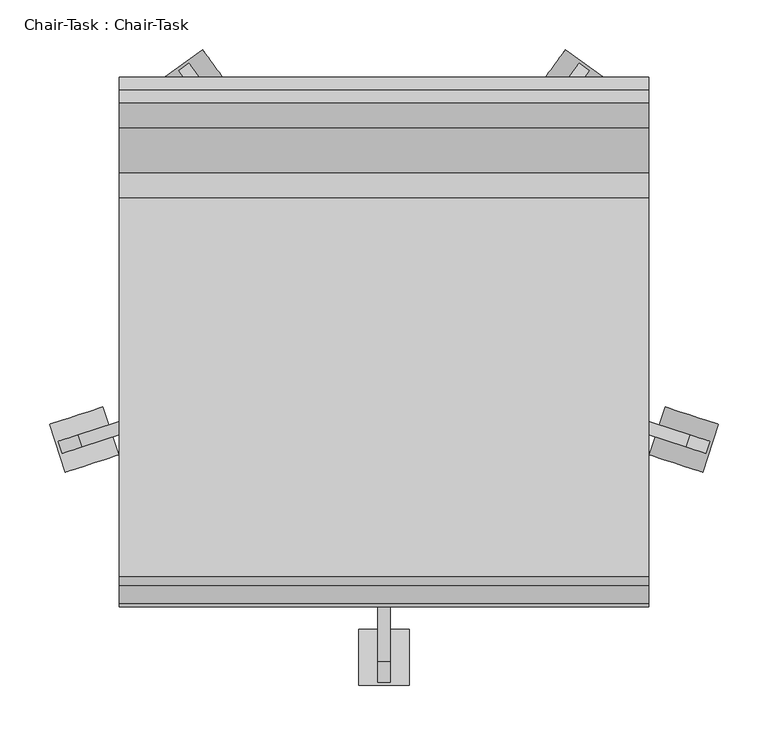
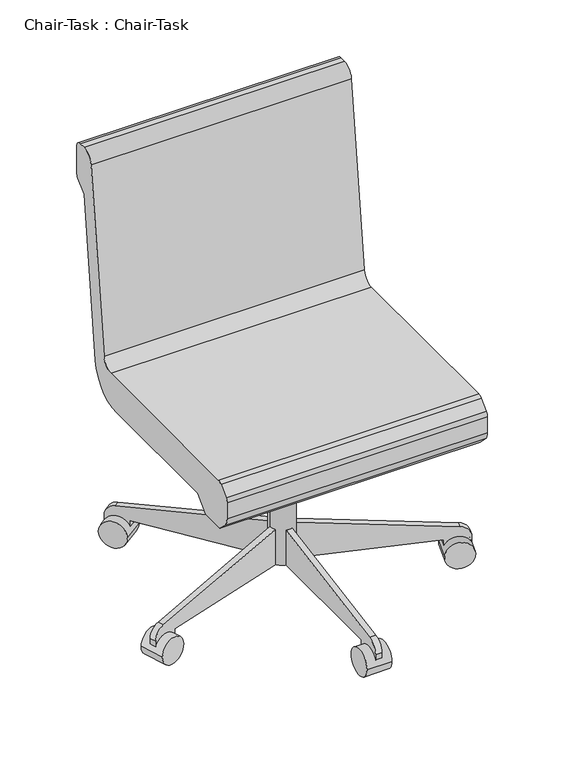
"""IFC4 building model written with IfcOpenShell, lengths in millimetres: furniture geometry, Chair-Task : Chair-Task."""

import ifcopenshell
import ifcopenshell.guid

model = None  # the IFC model being written
_history = None  # IfcOwnerHistory: only IFC2X3 demands one
_inside = {}  # id of a spatial element -> (the spatial element, [elements in it])
_under = {}  # id of a project, library or spatial element -> (it, [spatial elements below it])
_declared = {}  # id of a project -> (the project, [libraries it declares])
_typed = {}  # id of a type object -> (the type object, [elements of that type])
_made_of = {}  # id of a material, layer set ... -> (it, [elements and type objects made of it])


def new_model(schema):
    """Start an empty IFC model of exactly this schema.

    Asked for "IFC4X3", IfcOpenShell would pick the latest addendum, in which some entities
    have other attributes; the version numbers below select the first issue.
    IFC2X3 requires an IfcOwnerHistory on every rooted entity: one is made here for all.
    """
    global model, _history
    if schema == "IFC4X3":
        model = ifcopenshell.file(schema_version=(4, 3, 0, 0))
    else:
        model = ifcopenshell.file(schema=schema)
    _inside.clear()
    _under.clear()
    _declared.clear()
    _typed.clear()
    _made_of.clear()
    _history = None
    if model.schema == "IFC2X3":
        org = make("IfcOrganization", Name="unknown")
        user = make(
            "IfcPersonAndOrganization",
            ThePerson=make("IfcPerson", FamilyName="unknown"),
            TheOrganization=org,
        )
        app = make(
            "IfcApplication",
            ApplicationDeveloper=org,
            Version="unknown",
            ApplicationFullName="unknown",
            ApplicationIdentifier="unknown",
        )
        _history = make(
            "IfcOwnerHistory",
            OwningUser=user,
            OwningApplication=app,
            ChangeAction="ADDED",
            CreationDate=0,
        )
    return model


def make(cls, **values):
    """One entity of the class cls with the attributes given. An attribute that is None is left unset."""
    return model.create_entity(
        cls, **{name: value for name, value in values.items() if value is not None}
    )


def rooted(cls, **values):
    """An entity with a GlobalId (a new one), such as an element, a storey or a relation."""
    return make(cls, GlobalId=ifcopenshell.guid.new(), OwnerHistory=_history, **values)


def si_unit(unit_type, name, prefix=None):
    """IfcSIUnit, for example si_unit("LENGTHUNIT", "METRE", prefix="MILLI")."""
    return make("IfcSIUnit", UnitType=unit_type, Prefix=prefix, Name=name)


def assignment(units):
    """IfcUnitAssignment: the units of a project."""
    return None if units is None else make("IfcUnitAssignment", Units=units)


def point(xyz):
    """IfcCartesianPoint."""
    return None if xyz is None else make("IfcCartesianPoint", Coordinates=xyz)


def direction(xyz):
    """IfcDirection."""
    return None if xyz is None else make("IfcDirection", DirectionRatios=xyz)


def frame(location, z_axis=None, x_axis=None):
    """IfcAxis2Placement3D, a coordinate frame: its origin and axes. An axis left out is left unset."""
    return make(
        "IfcAxis2Placement3D",
        Location=point(location),
        Axis=direction(z_axis),
        RefDirection=direction(x_axis),
    )


def frame_2d(location, x_axis=None):
    """IfcAxis2Placement2D, a coordinate frame in the plane: its origin and x axis."""
    return make(
        "IfcAxis2Placement2D", Location=point(location), RefDirection=direction(x_axis)
    )


def origin():
    """The frame at (0, 0, 0) with its axes left unset."""
    return frame((0.0, 0.0, 0.0))


def place(relative_to, where):
    """IfcLocalPlacement: puts the frame where relative to a parent placement (None: the world)."""
    return make(
        "IfcLocalPlacement", PlacementRelTo=relative_to, RelativePlacement=where
    )


def context(
    kind, dimensions, precision=None, world=None, true_north=None, identifier=None
):
    """IfcGeometricRepresentationContext, for example the 3D "Model" context."""
    return make(
        "IfcGeometricRepresentationContext",
        ContextIdentifier=identifier,
        ContextType=kind,
        CoordinateSpaceDimension=dimensions,
        Precision=precision,
        WorldCoordinateSystem=world,
        TrueNorth=true_north,
    )


def project(units=None, contexts=None):
    """IfcProject with its units and contexts."""
    return rooted(
        "IfcProject",
        Name="project",
        RepresentationContexts=contexts,
        UnitsInContext=assignment(units),
    )


def spatial(cls, under=None, at=None, **own):
    """A site, building, storey or space (cls), placed at a placement, below another one or the project."""
    s = rooted(cls, ObjectPlacement=at, **own)
    if under is not None:
        _under.setdefault(under.id(), (under, []))[1].append(s)
    return s


def polyline(points):
    """IfcPolyline through the points."""
    return make("IfcPolyline", Points=[point(p) for p in points])


def circle_curve(where, radius):
    """IfcCircle in the frame where."""
    return make("IfcCircle", Position=where, Radius=radius)


def trimmed(basis, trim1, trim2, sense, master):
    """IfcTrimmedCurve: the piece of a basis curve between two trims."""
    return make(
        "IfcTrimmedCurve",
        BasisCurve=basis,
        Trim1=trim1,
        Trim2=trim2,
        SenseAgreement=sense,
        MasterRepresentation=master,
    )


def segment(curve, same_sense, transition):
    """IfcCompositeCurveSegment."""
    return make(
        "IfcCompositeCurveSegment",
        Transition=transition,
        SameSense=same_sense,
        ParentCurve=curve,
    )


def composite_curve(segments, self_intersect=None):
    """IfcCompositeCurve: segments joined end to end."""
    return make("IfcCompositeCurve", Segments=segments, SelfIntersect=self_intersect)


def outline(outer, holes=None, kind="AREA"):
    """IfcArbitraryClosedProfileDef: a profile drawn as a closed curve; with holes, ...WithVoids."""
    if holes is None:
        return make("IfcArbitraryClosedProfileDef", ProfileType=kind, OuterCurve=outer)
    return make(
        "IfcArbitraryProfileDefWithVoids",
        ProfileType=kind,
        OuterCurve=outer,
        InnerCurves=holes,
    )


def extrude(swept, where, along, depth):
    """IfcExtrudedAreaSolid: the profile swept, set in the frame where, extruded along a direction by depth."""
    return make(
        "IfcExtrudedAreaSolid",
        SweptArea=swept,
        Position=where,
        ExtrudedDirection=direction(along),
        Depth=depth,
    )


def shape(context_of_items, identifier, shape_type, items):
    """IfcShapeRepresentation: the items that make up one representation, for example the "Body"."""
    return make(
        "IfcShapeRepresentation",
        ContextOfItems=context_of_items,
        RepresentationIdentifier=identifier,
        RepresentationType=shape_type,
        Items=items,
    )


def source(mapping_origin, context_of_items, identifier, shape_type, items):
    """IfcRepresentationMap: a shape defined once, which mapped items show again and again."""
    return make(
        "IfcRepresentationMap",
        MappingOrigin=mapping_origin,
        MappedRepresentation=shape(context_of_items, identifier, shape_type, items),
    )


def transform(
    local_origin,
    x_axis=None,
    y_axis=None,
    z_axis=None,
    scale=None,
    scale2=None,
    scale3=None,
    uniform=True,
):
    """IfcCartesianTransformationOperator3D, or its non-uniform kind. x_axis, y_axis, z_axis: its Axis1, 2, 3."""
    if uniform:
        return make(
            "IfcCartesianTransformationOperator3D",
            Axis1=direction(x_axis),
            Axis2=direction(y_axis),
            LocalOrigin=point(local_origin),
            Scale=scale,
            Axis3=direction(z_axis),
        )
    return make(
        "IfcCartesianTransformationOperator3DnonUniform",
        Axis1=direction(x_axis),
        Axis2=direction(y_axis),
        LocalOrigin=point(local_origin),
        Scale=scale,
        Axis3=direction(z_axis),
        Scale2=scale2,
        Scale3=scale3,
    )


def mapped(mapping_source, mapping_target):
    """IfcMappedItem: shows the shape of a source again, moved by a transform."""
    return make(
        "IfcMappedItem", MappingSource=mapping_source, MappingTarget=mapping_target
    )


def made_of(thing, what):
    """Note that an element or type object is made of a material, layer set ...; save() writes the relation."""
    if what is not None:
        _made_of.setdefault(what.id(), (what, []))[1].append(thing)
    return thing


def element(
    cls,
    number,
    at=None,
    inside=None,
    cuts=None,
    type_object=None,
    material=None,
    context=None,
    identifier="Body",
    shape_type=None,
    held_by="IfcProductDefinitionShape",
    body=None,
    shapes=None,
    **own,
):
    """One element of the class cls, such as IfcWall. Its Tag is "e" and its number.

    at: its placement. inside: the storey or other place that contains it. cuts: it is an
    opening in that element (IfcRelVoidsElement). A single representation is given by context,
    identifier, shape_type and body (its items); several are given by shapes. held_by: the class
    of the entity that holds the representations. save() writes the other relations.
    """
    e = rooted(cls, Tag="e%d" % number, ObjectPlacement=at, **own)
    if body is not None:
        shapes = [shape(context, identifier, shape_type, body)]
    if shapes is not None:
        e.Representation = make(held_by, Representations=shapes)
    if inside is not None:
        _inside.setdefault(inside.id(), (inside, []))[1].append(e)
    if cuts is not None:
        rooted(
            "IfcRelVoidsElement", RelatingBuildingElement=cuts, RelatedOpeningElement=e
        )
    if type_object is not None:
        _typed.setdefault(type_object.id(), (type_object, []))[1].append(e)
    return made_of(e, material)


def aggregate(whole, parts):
    """IfcRelAggregates: a whole, such as a stair, and the parts it consists of."""
    return rooted("IfcRelAggregates", RelatingObject=whole, RelatedObjects=parts)


def save(model, path):
    """Write the relations noted so far, then the file.

    IfcRelAggregates (storeys below a building ...), IfcRelContainedInSpatialStructure (elements
    in a storey), IfcRelDefinesByType, IfcRelAssociatesMaterial and IfcRelDeclares: one each for
    every whole, place, type object, material and project.
    """
    for whole, parts in _under.values():
        aggregate(whole, parts)
    for where, things in _inside.values():
        rooted(
            "IfcRelContainedInSpatialStructure",
            RelatedElements=things,
            RelatingStructure=where,
        )
    for kind, things in _typed.values():
        rooted("IfcRelDefinesByType", RelatedObjects=things, RelatingType=kind)
    for what, things in _made_of.values():
        rooted("IfcRelAssociatesMaterial", RelatedObjects=things, RelatingMaterial=what)
    for by, libraries in _declared.values():
        rooted("IfcRelDeclares", RelatingContext=by, RelatedDefinitions=libraries)
    model.write(path)


def chair_task_chair_task_a9f69f28(model_context):
    return source(origin(), model_context, "Body", "SweptSolid", [
        extrude(outline(composite_curve([segment(trimmed(circle_curve(frame_2d((140.9908197, -18.9459016)), 25.4), [point((115.5908197, -18.9459016))], [point((166.3908197, -18.9459016))], False, "CARTESIAN"), True, "CONTINUOUS"), segment(trimmed(circle_curve(frame_2d((140.9908197, -18.9459016)), 25.4), [point((166.3908197, -18.9459016))], [point((115.5908197, -18.9459016))], False, "CARTESIAN"), True, "CONTINUOUS")], self_intersect=False)), frame((0.0, 0.0, 53.5835944), z_axis=(0.0, 0.0, 1.0), x_axis=(1.0, 0.0, 0.0)), (0.0, 0.0, 1.0), 330.5914056),
        extrude(outline(composite_curve([segment(trimmed(circle_curve(frame_2d((0.0, 28.2002728)), 28.2002727), [point((0.0, 56.4005455))], [point((0.0, 0.0))], False, "CARTESIAN"), True, "CONTINUOUS"), segment(trimmed(circle_curve(frame_2d((0.0, 28.2002728)), 28.2002727), [point((0.0, 0.0))], [point((0.0, 56.4005455))], False, "CARTESIAN"), True, "CONTINUOUS")], self_intersect=False)), frame((461.9222851, -149.9299964, 28.1835944), z_axis=(0.3090169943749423, 0.9510565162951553, 0.0), x_axis=(0.0, 0.0, -1.0)), (0.0, 0.0, 1.0), 50.8),
        extrude(outline(composite_curve([segment(polyline([(25.4, 0.0), (0.0, 0.0), (0.0, 50.8), (24.303053, 50.8)]), True, "CONTINUOUS"), segment(trimmed(circle_curve(frame_2d((24.303053, 25.4)), 25.4), [point((24.303053, 50.8))], [point((49.3171699, 29.8106636))], False, "CARTESIAN"), True, "CONTINUOUS"), segment(polyline([(49.3171699, 29.8106636), (101.6, -266.7), (101.6, -292.1), (25.4, -292.1), (25.4, 0.0)]), True, "CONTINUOUS")], self_intersect=False)), frame((416.8321702, -115.2489746, 28.1835944), z_axis=(0.3090169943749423, 0.9510565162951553, 0.0), x_axis=(0.0, 0.0, 1.0)), (0.0, 0.0, 1.0), 12.7),
        extrude(outline(composite_curve([segment(trimmed(circle_curve(frame_2d((0.0, 28.2002726)), 28.2002727), [point((0.0, 56.4005454))], [point((0.0, 0.0))], False, "CARTESIAN"), True, "CONTINUOUS"), segment(trimmed(circle_curve(frame_2d((0.0, 28.2002726)), 28.2002727), [point((0.0, 0.0))], [point((0.0, 56.4005454))], False, "CARTESIAN"), True, "CONTINUOUS")], self_intersect=False)), frame((364.7373733, 245.8017485, 28.1835944), z_axis=(-0.8090169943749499, 0.5877852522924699, 0.0), x_axis=(0.0, 0.0, -1.0)), (0.0, 0.0, 1.0), 50.8),
        extrude(outline(composite_curve([segment(polyline([(25.4, 0.0), (0.0, 0.0), (0.0, 50.8), (24.303053, 50.8)]), True, "CONTINUOUS"), segment(trimmed(circle_curve(frame_2d((24.303053, 25.3999999)), 25.4), [point((24.303053, 50.8))], [point((49.3171699, 29.8106637))], False, "CARTESIAN"), True, "CONTINUOUS"), segment(polyline([(49.3171699, 29.8106637), (101.6, -266.7), (101.6, -292.1), (25.4, -292.1), (25.4, 0.0)]), True, "CONTINUOUS")], self_intersect=False)), frame((317.8201498, 213.6355261, 28.1835944), z_axis=(-0.8090169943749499, 0.5877852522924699, 0.0), x_axis=(0.0, 0.0, 1.0)), (0.0, 0.0, 1.0), 12.7),
        extrude(outline(composite_curve([segment(trimmed(circle_curve(frame_2d((0.0, 28.2002726)), 28.2002727), [point((0.0, 56.4005454))], [point((0.0, 0.0))], False, "CARTESIAN"), True, "CONTINUOUS"), segment(trimmed(circle_curve(frame_2d((0.0, 28.2002726)), 28.2002727), [point((0.0, 0.0))], [point((0.0, 56.4005454))], False, "CARTESIAN"), True, "CONTINUOUS")], self_intersect=False)), frame((-82.755734, 245.8017485, 28.1835944), z_axis=(0.8090169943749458, 0.5877852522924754, 0.0), x_axis=(0.0, 0.0, 1.0)), (0.0, 0.0, 1.0), 50.8),
        extrude(outline(composite_curve([segment(polyline([(-25.4, 0.0), (-25.4, -292.1), (-101.6, -292.1), (-101.6, -266.6999999), (-49.3171699, 29.8106637)]), True, "CONTINUOUS"), segment(trimmed(circle_curve(frame_2d((-24.303053, 25.3999999)), 25.4), [point((-49.3171699, 29.8106637))], [point((-24.303053, 50.8))], False, "CARTESIAN"), True, "CONTINUOUS"), segment(polyline([(-24.303053, 50.8), (0.0, 50.8), (0.0, 0.0), (-25.4, 0.0)]), True, "CONTINUOUS")], self_intersect=False)), frame((-35.8385104, 213.6355261, 28.1835944), z_axis=(0.8090169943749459, 0.5877852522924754, 0.0), x_axis=(0.0, 0.0, -1.0)), (0.0, 0.0, 1.0), 12.7),
        extrude(outline(composite_curve([segment(trimmed(circle_curve(frame_2d((0.0, 28.2002727)), 28.2002727), [point((0.0, 56.4005454))], [point((0.0, 0.0))], False, "CARTESIAN"), True, "CONTINUOUS"), segment(trimmed(circle_curve(frame_2d((0.0, 28.2002727)), 28.2002727), [point((0.0, 0.0))], [point((0.0, 56.4005454))], False, "CARTESIAN"), True, "CONTINUOUS")], self_intersect=False)), frame((-179.9406457, -149.9299964, 28.1835944), z_axis=(-0.3090169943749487, 0.9510565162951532, 0.0), x_axis=(0.0, 0.0, 1.0)), (0.0, 0.0, 1.0), 50.8),
        extrude(outline(composite_curve([segment(polyline([(-25.4, 0.0), (-25.4, -292.1), (-101.6, -292.1), (-101.6, -266.7), (-49.3171699, 29.8106637)]), True, "CONTINUOUS"), segment(trimmed(circle_curve(frame_2d((-24.303053, 25.4)), 25.4), [point((-49.3171699, 29.8106637))], [point((-24.303053, 50.8000001))], False, "CARTESIAN"), True, "CONTINUOUS"), segment(polyline([(-24.303053, 50.8000001), (0.0, 50.8000001), (0.0, 0.0), (-25.4, 0.0)]), True, "CONTINUOUS")], self_intersect=False)), frame((-134.8505308, -115.2489746, 28.1835944), z_axis=(-0.3090169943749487, 0.9510565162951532, 0.0), x_axis=(0.0, 0.0, -1.0)), (0.0, 0.0, 1.0), 12.7),
        extrude(outline(composite_curve([segment(trimmed(circle_curve(frame_2d((-336.4459016, 28.1835944)), 28.2002727), [point((-308.2456289, 28.1835944))], [point((-364.6461744, 28.1835944))], False, "CARTESIAN"), True, "CONTINUOUS"), segment(trimmed(circle_curve(frame_2d((-336.4459016, 28.1835944)), 28.2002727), [point((-364.6461744, 28.1835944))], [point((-308.2456289, 28.1835944))], False, "CARTESIAN"), True, "CONTINUOUS")], self_intersect=False)), frame((115.5908197, 0.0, 0.0), z_axis=(1.0, 0.0, 0.0), x_axis=(0.0, 1.0, 0.0)), (0.0, 0.0, 1.0), 50.8),
        extrude(outline(composite_curve([segment(polyline([(-311.0459016, 53.5835944), (-311.0459016, 28.1835944), (-361.8459016, 28.1835944), (-361.8459016, 52.4866474)]), True, "CONTINUOUS"), segment(trimmed(circle_curve(frame_2d((-336.4459016, 52.4866474)), 25.4), [point((-361.8459016, 52.4866474))], [point((-340.8565654, 77.5007643))], False, "CARTESIAN"), True, "CONTINUOUS"), segment(polyline([(-340.8565654, 77.5007643), (-44.3459016, 129.7835944), (-18.9459016, 129.7835944), (-18.9459016, 53.5835944), (-311.0459016, 53.5835944)]), True, "CONTINUOUS")], self_intersect=False)), frame((134.6408197, 0.0, 0.0), z_axis=(1.0, 0.0, 0.0), x_axis=(0.0, 1.0, 0.0)), (0.0, 0.0, 1.0), 12.7),
        extrude(outline(polyline([(-69.7459016, 383.7835944), (19.1540984, 383.7835944), (19.1540984, 283.0954134), (-18.9459016, 283.0954134), (-69.7459016, 371.0835944), (-69.7459016, 383.7835944)])), frame((90.1908197, 0.0, 0.0), z_axis=(1.0, 0.0, 0.0), x_axis=(0.0, 1.0, 0.0)), (0.0, 0.0, 1.0), 101.6),
        extrude(outline(composite_curve([segment(trimmed(circle_curve(frame_2d((126.2050455, 482.6)), 25.4), [point((126.2050455, 457.2))], [point((151.4310708, 479.6322323))], True, "CARTESIAN"), True, "CONTINUOUS"), segment(polyline([(151.4310708, 479.6322323), (196.9528985, 866.5677677)]), True, "CONTINUOUS"), segment(trimmed(circle_curve(frame_2d((222.1789239, 863.6)), 25.4), [point((196.9528985, 866.5677677))], [point((222.1789239, 889.0))], False, "CARTESIAN"), True, "CONTINUOUS"), segment(polyline([(222.1789239, 889.0), (235.0540984, 889.0)]), True, "CONTINUOUS"), segment(trimmed(circle_curve(frame_2d((235.0540984, 876.3)), 12.7), [point((235.0540984, 889.0))], [point((247.7540984, 876.3))], False, "CARTESIAN"), True, "CONTINUOUS"), segment(polyline([(247.7540984, 876.3), (247.7540984, 818.0605122)]), True, "CONTINUOUS"), segment(trimmed(circle_curve(frame_2d((235.0540984, 818.0605122)), 12.7), [point((247.7540984, 818.0605122))], [point((244.0343545, 809.0802561))], False, "CARTESIAN"), True, "CONTINUOUS"), segment(polyline([(244.0343545, 809.0802561), (222.3540984, 787.4), (182.7870738, 451.0802913)]), True, "CONTINUOUS"), segment(trimmed(circle_curve(frame_2d((107.1089978, 459.9835944)), 76.2), [point((182.7870738, 451.0802913))], [point((107.1089978, 383.7835944))], False, "CARTESIAN"), True, "CONTINUOUS"), segment(polyline([(107.1089978, 383.7835944), (-181.0744602, 383.7835944), (-209.4470284, 355.6), (-260.2470284, 355.6), (-278.2663256, 373.7401184)]), True, "CONTINUOUS"), segment(trimmed(circle_curve(frame_2d((-260.2459016, 391.6405184)), 25.4), [point((-278.2663256, 373.7401184))], [point((-285.6459016, 391.6405184))], False, "CARTESIAN"), True, "CONTINUOUS"), segment(polyline([(-285.6459016, 391.6405184), (-285.6459016, 426.6837879)]), True, "CONTINUOUS"), segment(trimmed(circle_curve(frame_2d((-272.9459016, 426.6837879)), 12.7), [point((-285.6459016, 426.6837879))], [point((-281.8961016, 435.6939999))], False, "CARTESIAN"), True, "CONTINUOUS"), segment(polyline([(-281.8961016, 435.6939999), (-263.9604301, 453.510212)]), True, "CONTINUOUS"), segment(trimmed(circle_curve(frame_2d((-255.0102301, 444.5)), 12.7), [point((-263.9604301, 453.510212))], [point((-255.0102301, 457.2))], False, "CARTESIAN"), True, "CONTINUOUS"), segment(polyline([(-255.0102301, 457.2), (126.2050455, 457.2)]), True, "CONTINUOUS")], self_intersect=False)), frame((-125.7091803, 0.0, 0.0), z_axis=(1.0, 0.0, 0.0), x_axis=(0.0, 1.0, 0.0)), (0.0, 0.0, 1.0), 533.4),
    ])


if __name__ == "__main__":
    model = new_model("IFC4")
    model_context = context("Model", 3, world=origin())
    ifc_project = project(units=[si_unit("LENGTHUNIT", "METRE", prefix="MILLI")], contexts=[model_context])
    site = spatial("IfcSite", under=ifc_project)
    building = spatial("IfcBuilding", under=site)
    placement = place(None, origin())
    chair_task_chair_task_shape = chair_task_chair_task_a9f69f28(model_context)
    element("IfcFurniture", 1, ObjectType="Chair-Task : Chair-Task", at=placement, inside=building, context=model_context, shape_type="MappedRepresentation", body=[
        mapped(chair_task_chair_task_shape, transform((0.0, 0.0, 0.0), x_axis=(1.0, 0.0, 0.0), y_axis=(0.0, 1.0, 0.0), z_axis=(0.0, 0.0, 1.0))),
    ])
    save(model, "model.ifc")
